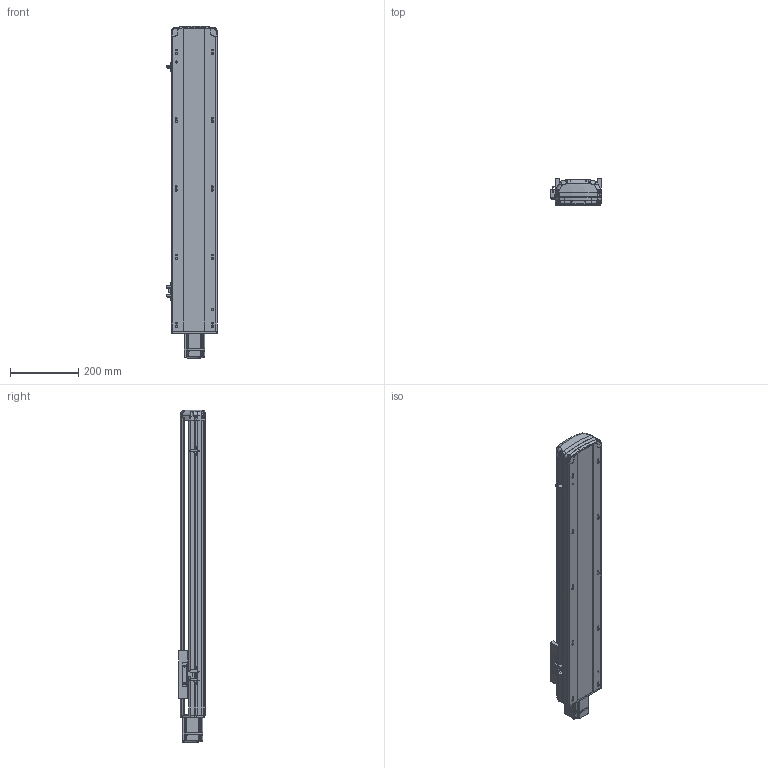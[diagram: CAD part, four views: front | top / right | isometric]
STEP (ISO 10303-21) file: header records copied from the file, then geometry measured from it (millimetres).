
FILE_DESCRIPTION (( 'STEP AP214' ), '1' );
FILE_NAME ('RTH14-XX-650-E-M20-C4.STEP', '2025-10-24T09:09:22', ( 'Microsoft' ), ( 'Microsoft' ), 'SwSTEP 2.0', 'SolidWorks 2018', '' );
FILE_SCHEMA (( 'AUTOMOTIVE_DESIGN' ));
Length unit declared in the file: millimetre
Products named in the file (9): N_RTH13-E-008萇儂耜猾裔^RTH14-XX-XX-E-M20-C4; N_MSMD022P1AA_200W^RTH14-XX-XX-E-M20-C4; N_RTH14-E-007P奻裔^RTH14-XX-XX-E-M20-C4; N_RTH14-E-011P菁釱^RTH14-XX-XX-E-M20-C4; N_RTH14-GY-001P^RTH14-XX-XX-E-M20-C4; RTH14-XX-650-E-M20-C4; N_RTH13-L-012感应片（外置）^RTH14-XX-XX-E-M20-C4; N_OMRON EE-SX672 传感器^RTH14-XX-XX-E-M20-C4; N_RTH14-R-004-SFSR16賑釱^RTH14-XX-XX-E-M20-C4
Assembly tree (10 placements, depth 2):
  RTH14-XX-650-E-M20-C4
    N_RTH14-E-011P菁釱^RTH14-XX-XX-E-M20-C4
    N_RTH14-E-007P奻裔^RTH14-XX-XX-E-M20-C4
    N_MSMD022P1AA_200W^RTH14-XX-XX-E-M20-C4
    N_RTH13-L-012感应片（外置）^RTH14-XX-XX-E-M20-C4
    N_OMRON EE-SX672 传感器^RTH14-XX-XX-E-M20-C4  x3
    N_RTH13-E-008萇儂耜猾裔^RTH14-XX-XX-E-M20-C4
    N_RTH14-R-004-SFSR16賑釱^RTH14-XX-XX-E-M20-C4
    N_RTH14-GY-001P^RTH14-XX-XX-E-M20-C4
Bounding box: 148.5 x 78.03 x 972.37 mm (x, y, z)
Volume: 4050657.1 mm3; surface area: 890717.9 mm2
Topology: 10 solids, 10 shells, 1867 faces, 5254 edges, 3452 vertices
Faces by surface type: plane 977, cylinder 500, bspline 341, cone 45, torus 4
Entity records: 57192 total; most frequent: CARTESIAN_POINT 22852, ORIENTED_EDGE 7576, DIRECTION 6111, EDGE_CURVE 3788, VERTEX_POINT 2488, VECTOR 2167, LINE 2167, AXIS2_PLACEMENT_3D 1972
